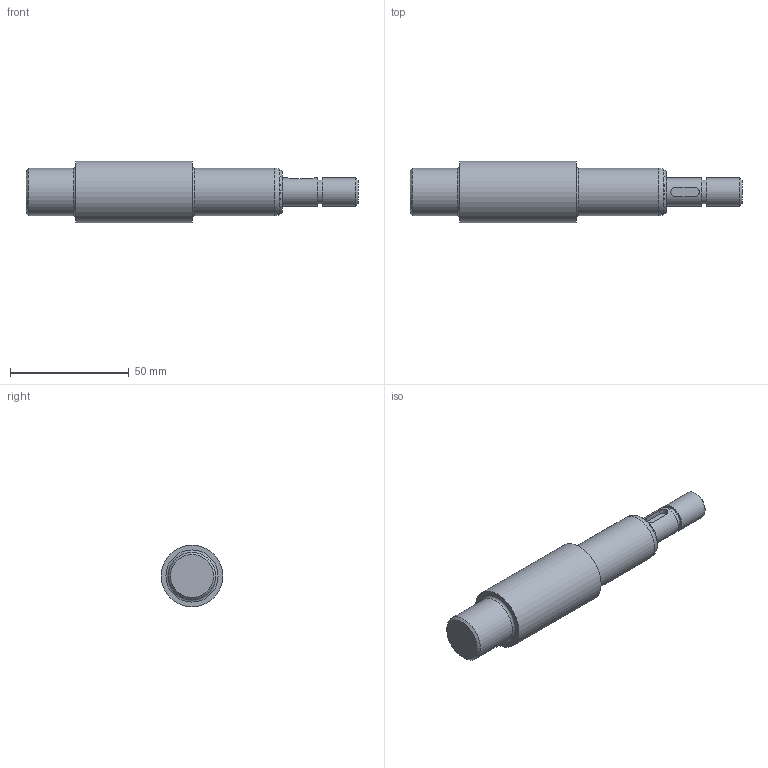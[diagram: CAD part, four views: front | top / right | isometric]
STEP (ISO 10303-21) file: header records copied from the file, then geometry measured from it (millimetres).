
FILE_DESCRIPTION(/* description */ (''),/* implementation_level */ '2;1');
FILE_NAME(/* name */ '',/* time_stamp */ '2025-08-05T11:19:51+09:00',/* author */ ('jhkim'),/* organization */ (''),/* preprocessor_version */ 'ST-DEVELOPER v20.1',/* originating_system */ 'Autodesk Inventor 2026',/* authorisation */ '');
FILE_SCHEMA (('AUTOMOTIVE_DESIGN { 1 0 10303 214 3 1 1 }'));
Length unit declared in the file: millimetre
Products named in the file (1): 축
Bounding box: 140 x 26 x 26 mm (x, y, z)
Volume: 47904.2 mm3; surface area: 9910.2 mm2
Topology: 1 solids, 1 shells, 25 faces, 53 edges, 36 vertices
Faces by surface type: plane 10, cylinder 8, torus 4, cone 3
Full cylindrical faces by diameter (mm): 10 x1, 12 x2, 20 x2, 26 x1
Entity records: 766 total; most frequent: CARTESIAN_POINT 151, DIRECTION 133, ORIENTED_EDGE 106, AXIS2_PLACEMENT_3D 58, EDGE_CURVE 53, VERTEX_POINT 36, CIRCLE 32, EDGE_LOOP 31
